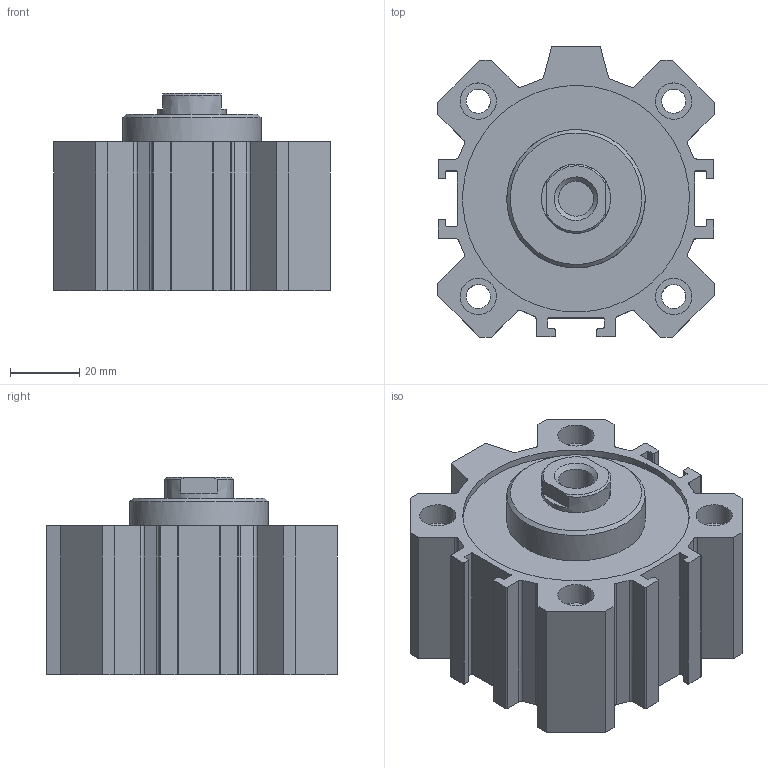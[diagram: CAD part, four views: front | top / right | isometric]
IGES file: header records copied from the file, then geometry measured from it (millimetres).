
Global section: file name: 1511_63_0000; native system: Autodesk Inventor 2014; preprocessor: unknown; author: A. Manieri; date: 20160824.140018; units: millimetre
Bounding box: 80 x 84 x 57 mm (x, y, z)
Volume: 222256.6 mm3; surface area: 55981.2 mm2
Topology: 2 solids, 2 shells, 165 faces, 443 edges, 300 vertices
Faces by surface type: bspline 165
